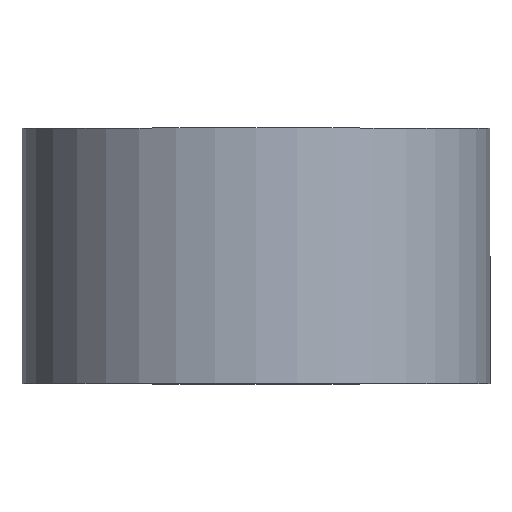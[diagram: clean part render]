
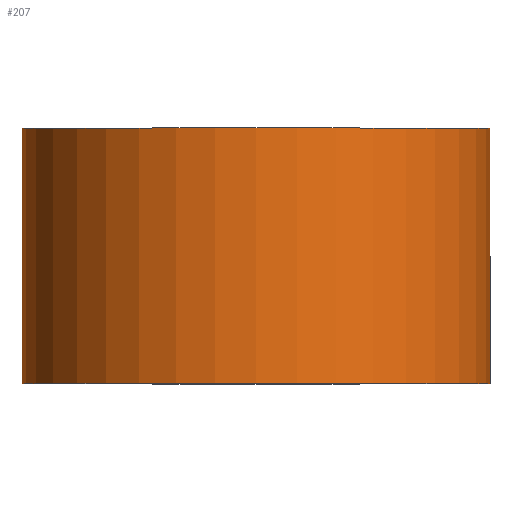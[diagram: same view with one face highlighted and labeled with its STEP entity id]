
A CAD part, top view. The second image highlights one B-rep face of the part: STEP entity #207.
In plain terms, the highlighted cylindrical face has radius 27.5 mm (diameter 55 mm), a partial arc.
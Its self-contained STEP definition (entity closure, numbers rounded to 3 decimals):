
#8 = VERTEX_POINT ( 'NONE', #123 ) ;
#23 = EDGE_CURVE ( 'NONE', #90, #50, #119, .T. ) ;
#34 = EDGE_CURVE ( 'NONE', #50, #8, #257, .T. ) ;
#50 = VERTEX_POINT ( 'NONE', #128 ) ;
#59 = CARTESIAN_POINT ( 'NONE',  ( 27.5, 0., 0. ) ) ;
#60 = EDGE_CURVE ( 'NONE', #90, #112, #108, .T. ) ;
#67 = VECTOR ( 'NONE', #196, 1000. ) ;
#68 = CARTESIAN_POINT ( 'NONE',  ( 0., 30., 0. ) ) ;
#71 = DIRECTION ( 'NONE',  ( 0., 1., 0. ) ) ;
#79 = DIRECTION ( 'NONE',  ( 0., 1., 0. ) ) ;
#90 = VERTEX_POINT ( 'NONE', #285 ) ;
#106 = DIRECTION ( 'NONE',  ( -1., 0., 0. ) ) ;
#108 = LINE ( 'NONE', #284, #67 ) ;
#109 = DIRECTION ( 'NONE',  ( -1., 0., 0. ) ) ;
#112 = VERTEX_POINT ( 'NONE', #176 ) ;
#119 = CIRCLE ( 'NONE', #171, 27.5 ) ;
#123 = CARTESIAN_POINT ( 'NONE',  ( 27.5, 30., 0. ) ) ;
#128 = CARTESIAN_POINT ( 'NONE',  ( 27.5, 0., 0. ) ) ;
#134 = ORIENTED_EDGE ( 'NONE', *, *, #223, .F. ) ;
#152 = ORIENTED_EDGE ( 'NONE', *, *, #60, .F. ) ;
#153 = DIRECTION ( 'NONE',  ( 0., 1., 0. ) ) ;
#171 = AXIS2_PLACEMENT_3D ( 'NONE', #215, #79, #106 ) ;
#176 = CARTESIAN_POINT ( 'NONE',  ( -27.5, 30., 0. ) ) ;
#196 = DIRECTION ( 'NONE',  ( 0., 1., 0. ) ) ;
#198 = VECTOR ( 'NONE', #213, 1000. ) ;
#207 = ADVANCED_FACE ( 'NONE', ( #230 ), #279, .T. ) ;
#213 = DIRECTION ( 'NONE',  ( 0., 1., 0. ) ) ;
#215 = CARTESIAN_POINT ( 'NONE',  ( 0., 0., 0. ) ) ;
#223 = EDGE_CURVE ( 'NONE', #112, #8, #225, .T. ) ;
#225 = CIRCLE ( 'NONE', #252, 27.5 ) ;
#228 = EDGE_LOOP ( 'NONE', ( #266, #243, #134, #152 ) ) ;
#230 = FACE_OUTER_BOUND ( 'NONE', #228, .T. ) ;
#243 = ORIENTED_EDGE ( 'NONE', *, *, #34, .T. ) ;
#252 = AXIS2_PLACEMENT_3D ( 'NONE', #68, #153, #109 ) ;
#257 = LINE ( 'NONE', #59, #198 ) ;
#261 = AXIS2_PLACEMENT_3D ( 'NONE', #265, #71, #290 ) ;
#265 = CARTESIAN_POINT ( 'NONE',  ( 0., 0., 0. ) ) ;
#266 = ORIENTED_EDGE ( 'NONE', *, *, #23, .T. ) ;
#279 = CYLINDRICAL_SURFACE ( 'NONE', #261, 27.5 ) ;
#284 = CARTESIAN_POINT ( 'NONE',  ( -27.5, 0., 0. ) ) ;
#285 = CARTESIAN_POINT ( 'NONE',  ( -27.5, 0., 0. ) ) ;
#290 = DIRECTION ( 'NONE',  ( -1., 0., 0. ) ) ;
